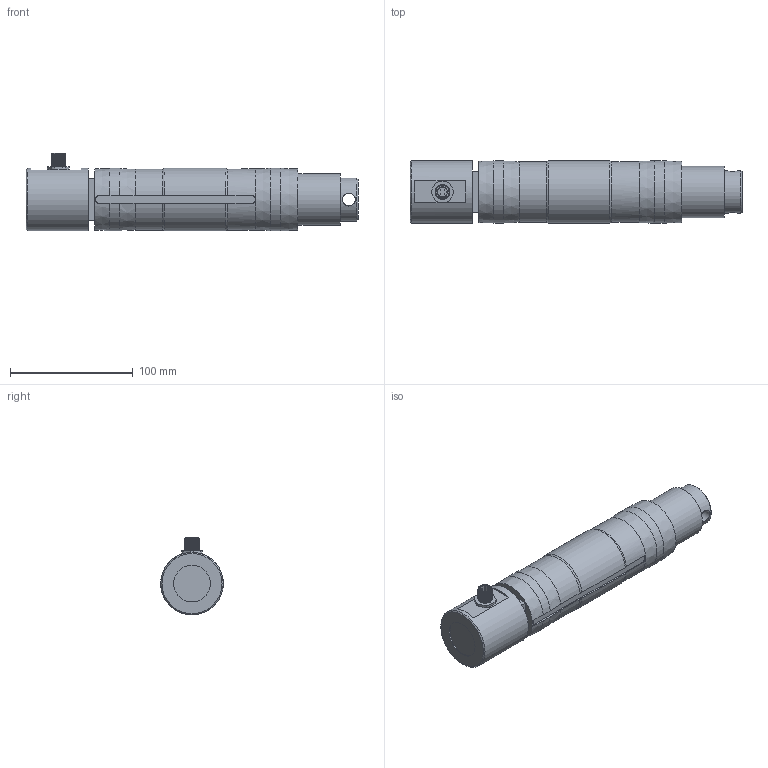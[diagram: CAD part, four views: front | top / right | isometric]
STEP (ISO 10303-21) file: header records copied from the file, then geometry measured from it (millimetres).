
FILE_DESCRIPTION(/* description */ ('Alibre Inc.'),/* implementation_level */ '2;1');
FILE_NAME(/* name */ 'export-EFCC6AC4-91AA-44FF-8BB2-85E634340DD1',/* time_stamp */ '2019-03-21T15:47:20+01:00',/* author */ (''),/* organization */ (''),/* preprocessor_version */ 'ST-DEVELOPER v17',/* originating_system */ 'Alibre',/* authorisation */ '');
FILE_SCHEMA (('CONFIG_CONTROL_DESIGN'));
Length unit declared in the file: centimetre
Products named in the file (3): ID_1
Bounding box: 271 x 51 x 63.36 mm (x, y, z)
Volume: 557841.6 mm3; surface area: 124197 mm2
Topology: 6 solids, 7 shells, 165 faces, 376 edges, 237 vertices
Faces by surface type: plane 67, cylinder 55, bspline 23, cone 14, torus 6
Full cylindrical faces by diameter (mm): 0.5 x8, 8 x2, 10 x2, 10.5 x1, 11 x1, 11.5 x1, 13 x2, 14.376 x1, 30 x1, 35 x1, 42 x1, 51 x2
Entity records: 14730 total; most frequent: CARTESIAN_POINT 11492, ORIENTED_EDGE 662, DIRECTION 433, EDGE_CURVE 324, EDGE_LOOP 224, FACE_BOUND 224, VERTEX_POINT 220, AXIS2_PLACEMENT_3D 192
